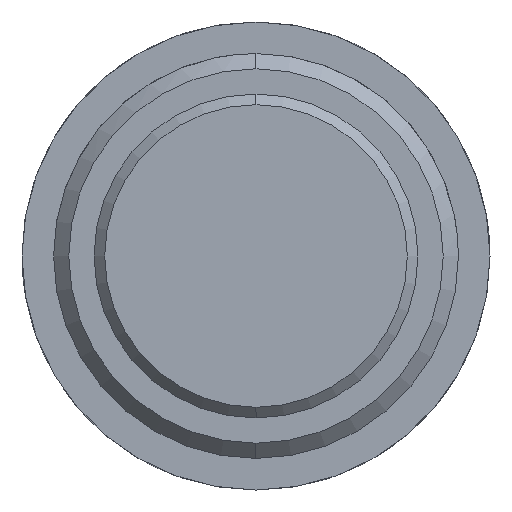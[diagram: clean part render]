
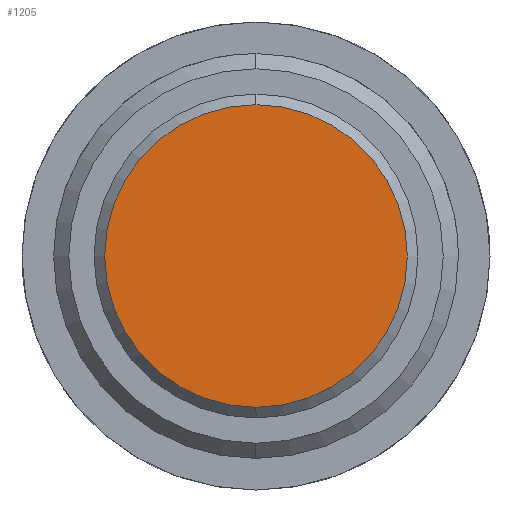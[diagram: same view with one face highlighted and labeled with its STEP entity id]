
A CAD part, left-side view. The second image highlights one B-rep face of the part: STEP entity #1205.
In plain terms, the highlighted planar face has unit normal (-1, 0, 0).
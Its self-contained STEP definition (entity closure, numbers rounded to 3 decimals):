
#1137=CARTESIAN_POINT('Vertex',(-39.,0.,-23.92)) ;
#1140=CARTESIAN_POINT('Axis2P3D Location',(-39.,0.,0.)) ;
#1144=CARTESIAN_POINT('Vertex',(-39.,23.92,0.)) ;
#1147=CARTESIAN_POINT('Axis2P3D Location',(-39.,0.,0.)) ;
#1151=CARTESIAN_POINT('Vertex',(-39.,0.,23.92)) ;
#1173=CARTESIAN_POINT('Axis2P3D Location',(-39.,0.,0.)) ;
#1177=CARTESIAN_POINT('Vertex',(-39.,-23.92,0.)) ;
#1180=CARTESIAN_POINT('Axis2P3D Location',(-39.,0.,0.)) ;
#1194=CARTESIAN_POINT('Axis2P3D Location',(-39.,0.,0.)) ;
#1141=DIRECTION('Axis2P3D Direction',(1.,0.,-0.)) ;
#1148=DIRECTION('Axis2P3D Direction',(1.,0.,-0.)) ;
#1174=DIRECTION('Axis2P3D Direction',(1.,0.,-0.)) ;
#1181=DIRECTION('Axis2P3D Direction',(1.,0.,-0.)) ;
#1195=DIRECTION('Axis2P3D Direction',(1.,0.,-0.)) ;
#1196=DIRECTION('Axis2P3D XDirection',(-0.,0.,-1.)) ;
#1142=AXIS2_PLACEMENT_3D('Circle Axis2P3D',#1140,#1141,$) ;
#1149=AXIS2_PLACEMENT_3D('Circle Axis2P3D',#1147,#1148,$) ;
#1175=AXIS2_PLACEMENT_3D('Circle Axis2P3D',#1173,#1174,$) ;
#1182=AXIS2_PLACEMENT_3D('Circle Axis2P3D',#1180,#1181,$) ;
#1197=AXIS2_PLACEMENT_3D('Plane Axis2P3D',#1194,#1195,#1196) ;
#1200=ORIENTED_EDGE('',*,*,#1146,.F.) ;
#1201=ORIENTED_EDGE('',*,*,#1184,.F.) ;
#1202=ORIENTED_EDGE('',*,*,#1179,.F.) ;
#1203=ORIENTED_EDGE('',*,*,#1153,.F.) ;
#1205=ADVANCED_FACE('AGS3422M30',(#1204),#1198,.F.) ;
#1143=CIRCLE('generated circle',#1142,23.92) ;
#1150=CIRCLE('generated circle',#1149,23.92) ;
#1176=CIRCLE('generated circle',#1175,23.92) ;
#1183=CIRCLE('generated circle',#1182,23.92) ;
#1146=EDGE_CURVE('',#1138,#1145,#1143,.T.) ;
#1153=EDGE_CURVE('',#1145,#1152,#1150,.T.) ;
#1179=EDGE_CURVE('',#1152,#1178,#1176,.T.) ;
#1184=EDGE_CURVE('',#1178,#1138,#1183,.T.) ;
#1199=EDGE_LOOP('',(#1200,#1201,#1202,#1203)) ;
#1204=FACE_OUTER_BOUND('',#1199,.T.) ;
#1198=PLANE('Plane',#1197) ;
#1138=VERTEX_POINT('',#1137) ;
#1145=VERTEX_POINT('',#1144) ;
#1152=VERTEX_POINT('',#1151) ;
#1178=VERTEX_POINT('',#1177) ;
